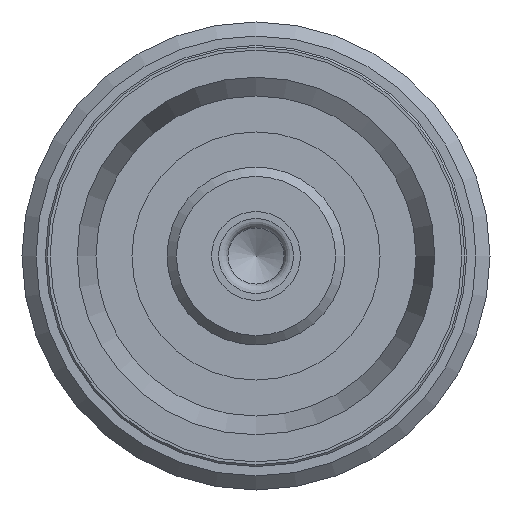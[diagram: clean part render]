
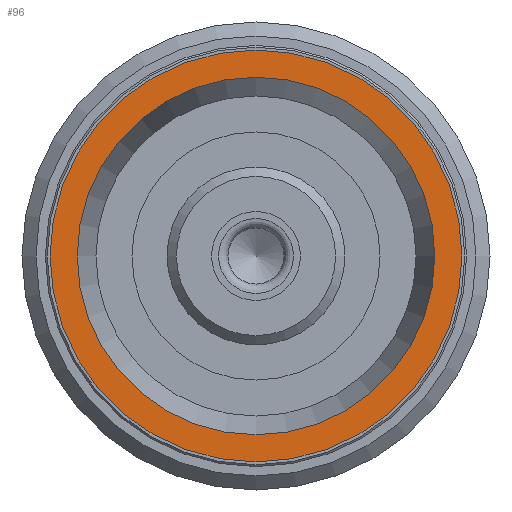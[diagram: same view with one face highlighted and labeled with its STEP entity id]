
A CAD part, front view. The second image highlights one B-rep face of the part: STEP entity #96.
In plain terms, the highlighted planar face has unit normal (0, -1, 0).
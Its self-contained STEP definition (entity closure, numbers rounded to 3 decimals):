
#59=PLANE('',#565);
#96=ADVANCED_FACE('',(#162,#163),#59,.F.);
#162=FACE_BOUND('',#252,.T.);
#163=FACE_BOUND('',#253,.T.);
#252=EDGE_LOOP('',(#340));
#253=EDGE_LOOP('',(#341));
#340=ORIENTED_EDGE('',*,*,#457,.F.);
#341=ORIENTED_EDGE('',*,*,#456,.T.);
#410=VERTEX_POINT('',#851);
#411=VERTEX_POINT('',#854);
#456=EDGE_CURVE('',#410,#410,#500,.T.);
#457=EDGE_CURVE('',#411,#411,#501,.T.);
#500=CIRCLE('',#562,2.2);
#501=CIRCLE('',#564,1.91);
#562=AXIS2_PLACEMENT_3D('',#850,#688,#689);
#564=AXIS2_PLACEMENT_3D('',#853,#692,#693);
#565=AXIS2_PLACEMENT_3D('',#855,#694,#695);
#688=DIRECTION('',(0.,-1.,0.));
#689=DIRECTION('',(0.,0.,-1.));
#692=DIRECTION('',(0.,-1.,0.));
#693=DIRECTION('',(0.,0.,-1.));
#694=DIRECTION('',(0.,1.,0.));
#695=DIRECTION('',(0.,0.,1.));
#850=CARTESIAN_POINT('',(0.,0.,0.));
#851=CARTESIAN_POINT('',(0.,0.,-2.2));
#853=CARTESIAN_POINT('',(0.,0.,0.));
#854=CARTESIAN_POINT('',(0.,0.,-1.91));
#855=CARTESIAN_POINT('',(-2.2,0.,0.));
